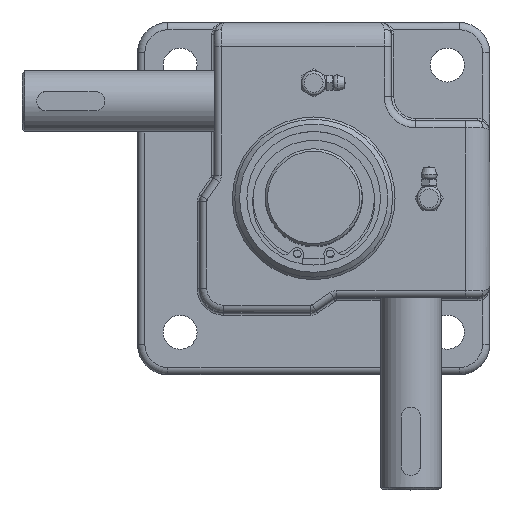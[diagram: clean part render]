
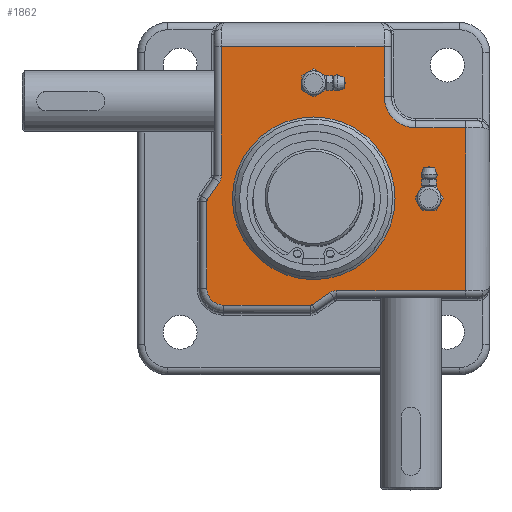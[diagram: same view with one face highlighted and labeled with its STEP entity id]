
A CAD part, top view. The second image highlights one B-rep face of the part: STEP entity #1862.
In plain terms, the highlighted planar face has unit normal (0, 0, 1).
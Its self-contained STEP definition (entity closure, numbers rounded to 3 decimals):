
#1862=ADVANCED_FACE('',(#4971,#4972,#4973,#4974),#4975,.T.);
#4971=FACE_OUTER_BOUND('',#10306,.T.);
#4972=FACE_BOUND('',#10307,.T.);
#4973=FACE_BOUND('',#10308,.T.);
#4974=FACE_BOUND('',#10309,.T.);
#4975=PLANE('',#10310);
#10306=EDGE_LOOP('',(#18189,#18190,#18191,#18192,#18193,#18194,#18195,#18196,#18197,#18198,#18199,#18200,#18201,#18202,#18203,#18204));
#10307=EDGE_LOOP('',(#18205));
#10308=EDGE_LOOP('',(#18206));
#10309=EDGE_LOOP('',(#18207));
#10310=AXIS2_PLACEMENT_3D('',#18208,#18209,#18210);
#18189=ORIENTED_EDGE('',*,*,#35227,.T.);
#18190=ORIENTED_EDGE('',*,*,#35599,.T.);
#18191=ORIENTED_EDGE('',*,*,#35733,.T.);
#18192=ORIENTED_EDGE('',*,*,#35734,.T.);
#18193=ORIENTED_EDGE('',*,*,#35308,.T.);
#18194=ORIENTED_EDGE('',*,*,#35735,.T.);
#18195=ORIENTED_EDGE('',*,*,#35656,.T.);
#18196=ORIENTED_EDGE('',*,*,#35736,.T.);
#18197=ORIENTED_EDGE('',*,*,#35299,.T.);
#18198=ORIENTED_EDGE('',*,*,#35737,.T.);
#18199=ORIENTED_EDGE('',*,*,#35738,.T.);
#18200=ORIENTED_EDGE('',*,*,#35303,.T.);
#18201=ORIENTED_EDGE('',*,*,#35739,.T.);
#18202=ORIENTED_EDGE('',*,*,#35740,.T.);
#18203=ORIENTED_EDGE('',*,*,#35741,.T.);
#18204=ORIENTED_EDGE('',*,*,#35742,.T.);
#18205=ORIENTED_EDGE('',*,*,#35556,.T.);
#18206=ORIENTED_EDGE('',*,*,#35743,.F.);
#18207=ORIENTED_EDGE('',*,*,#35744,.F.);
#18208=CARTESIAN_POINT('',(0.0,0.0,32.5));
#18209=DIRECTION('',(0.,0.,1.0));
#18210=DIRECTION('',(1.0,0.,0.));
#35227=EDGE_CURVE('',#42115,#42113,#42116,.T.);
#35299=EDGE_CURVE('',#42244,#42249,#42251,.T.);
#35303=EDGE_CURVE('',#42252,#42257,#42259,.T.);
#35308=EDGE_CURVE('',#42268,#42269,#42270,.T.);
#35556=EDGE_CURVE('',#42714,#42714,#42715,.T.);
#35599=EDGE_CURVE('',#42113,#42787,#42789,.T.);
#35656=EDGE_CURVE('',#42884,#42889,#42891,.T.);
#35733=EDGE_CURVE('',#42787,#43007,#43008,.T.);
#35734=EDGE_CURVE('',#43007,#42268,#43009,.T.);
#35735=EDGE_CURVE('',#42269,#42884,#43010,.T.);
#35736=EDGE_CURVE('',#42889,#42244,#43011,.T.);
#35737=EDGE_CURVE('',#42249,#43012,#43013,.T.);
#35738=EDGE_CURVE('',#43012,#42252,#43014,.T.);
#35739=EDGE_CURVE('',#42257,#43015,#43016,.T.);
#35740=EDGE_CURVE('',#43015,#43017,#43018,.T.);
#35741=EDGE_CURVE('',#43017,#43019,#43020,.T.);
#35742=EDGE_CURVE('',#43019,#42115,#43021,.T.);
#35743=EDGE_CURVE('',#43022,#43022,#43023,.T.);
#35744=EDGE_CURVE('',#43024,#43024,#43025,.T.);
#42113=VERTEX_POINT('',#54118);
#42115=VERTEX_POINT('',#54120);
#42116=LINE('',#54121,#54122);
#42244=VERTEX_POINT('',#54675);
#42249=VERTEX_POINT('',#54685);
#42251=CIRCLE('',#54696,1.0);
#42252=VERTEX_POINT('',#54697);
#42257=VERTEX_POINT('',#54703);
#42259=LINE('',#54710,#54711);
#42268=VERTEX_POINT('',#54722);
#42269=VERTEX_POINT('',#54723);
#42270=LINE('',#54724,#54725);
#42714=VERTEX_POINT('',#55552);
#42715=CIRCLE('',#55553,33.5);
#42787=VERTEX_POINT('',#55700);
#42789=LINE('',#55702,#55703);
#42884=VERTEX_POINT('',#55829);
#42889=VERTEX_POINT('',#55834);
#42891=CIRCLE('',#55836,5.0);
#43007=VERTEX_POINT('',#55997);
#43008=CIRCLE('',#55998,13.0);
#43009=LINE('',#55999,#56000);
#43010=LINE('',#56001,#56002);
#43011=LINE('',#56003,#56004);
#43012=VERTEX_POINT('',#56005);
#43013=LINE('',#56006,#56007);
#43014=CIRCLE('',#56008,7.0);
#43015=VERTEX_POINT('',#56009);
#43016=CIRCLE('',#56010,1.0);
#43017=VERTEX_POINT('',#56011);
#43018=LINE('',#56012,#56013);
#43019=VERTEX_POINT('',#56014);
#43020=CIRCLE('',#56015,5.0);
#43021=LINE('',#56016,#56017);
#43022=VERTEX_POINT('',#56018);
#43023=CIRCLE('',#56019,3.0);
#43024=VERTEX_POINT('',#56020);
#43025=CIRCLE('',#56021,3.0);
#54118=CARTESIAN_POINT('',(62.5,29.0,32.5));
#54120=CARTESIAN_POINT('',(62.5,-38.0,32.5));
#54121=CARTESIAN_POINT('',(62.5,6.2,32.5));
#54122=VECTOR('',#70711,1.0);
#54675=CARTESIAN_POINT('',(-43.829,-0.664,32.5));
#54685=CARTESIAN_POINT('',(-44.0,-1.223,32.5));
#54696=AXIS2_PLACEMENT_3D('',#70800,#70801,#70802);
#54697=CARTESIAN_POINT('',(-37.,-44.0,32.5));
#54703=CARTESIAN_POINT('',(-1.223,-44.0,32.5));
#54710=CARTESIAN_POINT('',(7.75,-44.0,32.5));
#54711=VECTOR('',#70807,1.0);
#54722=CARTESIAN_POINT('',(29.0,62.5,32.5));
#54723=CARTESIAN_POINT('',(-38.0,62.5,32.5));
#54724=CARTESIAN_POINT('',(0.2,62.5,32.5));
#54725=VECTOR('',#70816,1.0);
#55552=CARTESIAN_POINT('',(33.5,0.,32.5));
#55553=AXIS2_PLACEMENT_3D('',#71299,#71300,#71301);
#55700=CARTESIAN_POINT('',(42.0,29.0,32.5));
#55702=CARTESIAN_POINT('',(7.75,29.0,32.5));
#55703=VECTOR('',#71386,1.0);
#55829=CARTESIAN_POINT('',(-38.0,9.507,32.5));
#55834=CARTESIAN_POINT('',(-38.855,6.711,32.5));
#55836=AXIS2_PLACEMENT_3D('',#71493,#71494,#71495);
#55997=CARTESIAN_POINT('',(29.0,42.,32.5));
#55998=AXIS2_PLACEMENT_3D('',#71648,#71649,#71650);
#55999=CARTESIAN_POINT('',(29.0,7.75,32.5));
#56000=VECTOR('',#71651,1.0);
#56001=CARTESIAN_POINT('',(-38.0,7.75,32.5));
#56002=VECTOR('',#71652,1.0);
#56003=CARTESIAN_POINT('',(-27.676,23.284,32.5));
#56004=VECTOR('',#71653,1.0);
#56005=CARTESIAN_POINT('',(-44.0,-37.0,32.5));
#56006=CARTESIAN_POINT('',(-44.0,7.75,32.5));
#56007=VECTOR('',#71654,1.0);
#56008=AXIS2_PLACEMENT_3D('',#71655,#71656,#71657);
#56009=CARTESIAN_POINT('',(-0.664,-43.829,32.5));
#56010=AXIS2_PLACEMENT_3D('',#71658,#71659,#71660);
#56011=CARTESIAN_POINT('',(6.711,-38.855,32.5));
#56012=CARTESIAN_POINT('',(23.284,-27.676,32.5));
#56013=VECTOR('',#71661,1.0);
#56014=CARTESIAN_POINT('',(9.507,-38.0,32.5));
#56015=AXIS2_PLACEMENT_3D('',#71662,#71663,#71664);
#56016=CARTESIAN_POINT('',(7.75,-38.0,32.5));
#56017=VECTOR('',#71665,1.0);
#56018=CARTESIAN_POINT('',(50.5,0.,32.5));
#56019=AXIS2_PLACEMENT_3D('',#71666,#71667,#71668);
#56020=CARTESIAN_POINT('',(3.0,47.5,32.5));
#56021=AXIS2_PLACEMENT_3D('',#71669,#71670,#71671);
#70711=DIRECTION('',(0.0,1.0,0.));
#70800=CARTESIAN_POINT('',(-43.0,-1.223,32.5));
#70801=DIRECTION('',(0.,0.,1.0));
#70802=DIRECTION('',(1.0,0.,0.));
#70807=DIRECTION('',(1.0,0.0,0.));
#70816=DIRECTION('',(-1.0,0.0,0.));
#71299=CARTESIAN_POINT('',(0.,0.,32.5));
#71300=DIRECTION('',(0.,0.,-1.0));
#71301=DIRECTION('',(1.0,0.,0.));
#71386=DIRECTION('',(-1.0,0.0,0.));
#71493=CARTESIAN_POINT('',(-43.0,9.507,32.5));
#71494=DIRECTION('',(0.,0.,-1.0));
#71495=DIRECTION('',(1.0,0.,0.));
#71648=CARTESIAN_POINT('',(42.0,42.0,32.5));
#71649=DIRECTION('',(0.,0.,-1.0));
#71650=DIRECTION('',(1.0,0.,0.));
#71651=DIRECTION('',(0.0,1.0,0.));
#71652=DIRECTION('',(0.0,-1.0,0.));
#71653=DIRECTION('',(-0.559,-0.829,0.));
#71654=DIRECTION('',(0.0,-1.0,0.));
#71655=CARTESIAN_POINT('',(-37.0,-37.0,32.5));
#71656=DIRECTION('',(0.0,0.0,1.0));
#71657=DIRECTION('',(1.0,0.0,0.0));
#71658=CARTESIAN_POINT('',(-1.223,-43.0,32.5));
#71659=DIRECTION('',(0.,0.,1.0));
#71660=DIRECTION('',(1.0,0.,0.));
#71661=DIRECTION('',(0.829,0.559,0.));
#71662=CARTESIAN_POINT('',(9.507,-43.0,32.5));
#71663=DIRECTION('',(0.0,0.0,-1.0));
#71664=DIRECTION('',(1.0,0.0,0.0));
#71665=DIRECTION('',(1.0,0.0,0.));
#71666=CARTESIAN_POINT('',(47.5,0.,32.5));
#71667=DIRECTION('',(0.,0.,1.0));
#71668=DIRECTION('',(1.0,0.,0.));
#71669=CARTESIAN_POINT('',(0.0,47.5,32.5));
#71670=DIRECTION('',(0.,0.,1.0));
#71671=DIRECTION('',(1.0,0.,0.));
